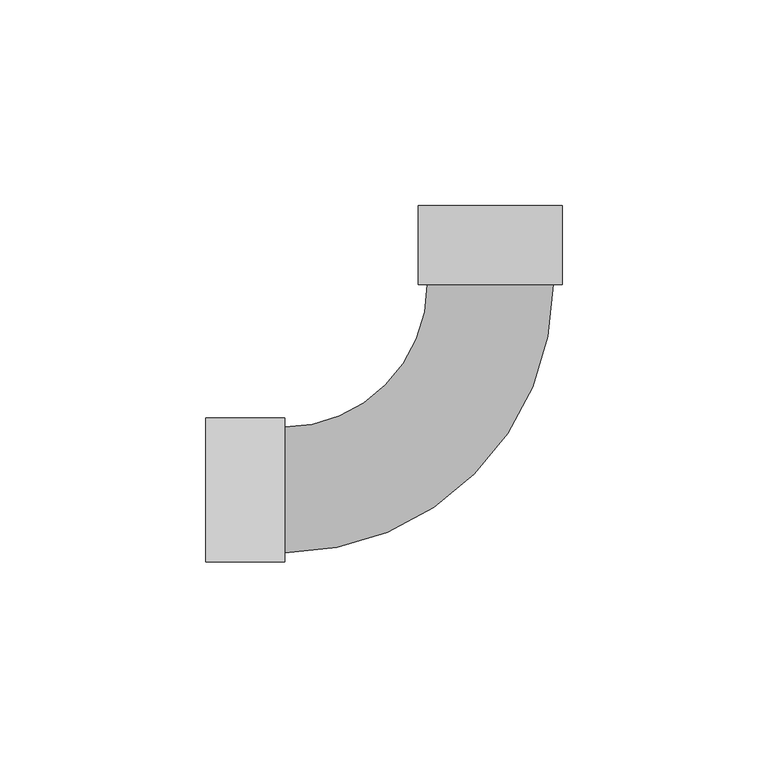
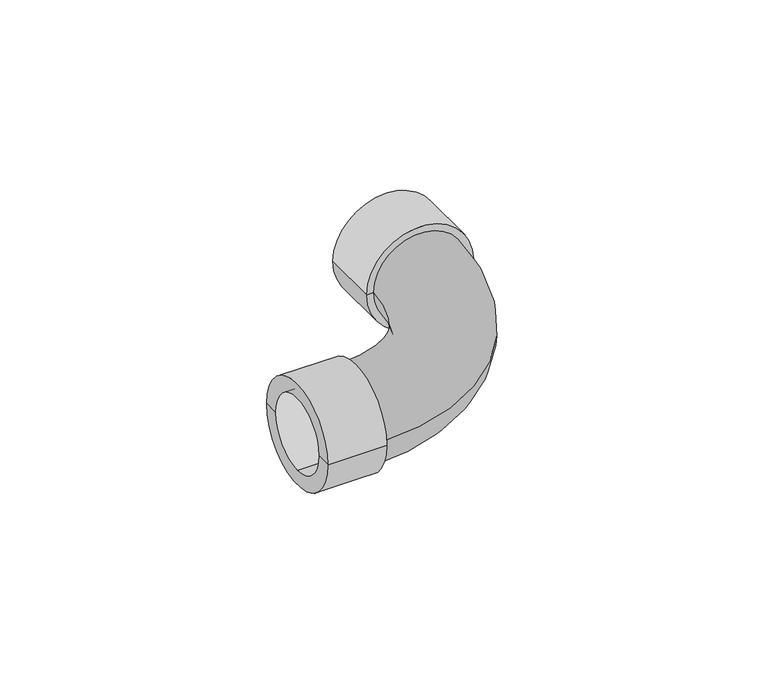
"""IFC4 building model written with IfcOpenShell, lengths in millimetres: pipe fitting geometry, PipeFitting_HTA_CPVC_Bends90° : 25mm x 90°."""

from ifc_helpers import new_model, si_unit, point, frame, origin, place, context, project, spatial, polyline, circle_curve, ellipse_curve, trimmed, source, transform, mapped, element, save
from ifc_brep_helpers import plane_surface, cylinder_surface, revolved_surface, advanced_brep


def pipe_fitting_d5c0d7c0(model_context):
    return source(origin(), model_context, "Body", "AdvancedBrep", [
        advanced_brep(
        [(-50.0, -15.3, 0.0), (15.3, 50.0, 0.0), (-15.3, 50.0, 0.0), (-50.0, 15.3, 0.0), (-50.0, 17.55, 0.0), (-50.0, -17.55, 0.0), (-69.2, -17.55, 0.0), (-69.2, 17.55, 0.0), (-69.2, -12.5, 0.0), (-69.2, 0.0, -12.5), (-69.2, 12.5, 0.0), (-69.2, 0.0, 12.5), (-17.55, 50.0, 0.0), (17.55, 50.0, 0.0), (17.55, 69.2, 0.0), (-17.55, 69.2, 0.0), (-12.5, 69.2, 0.0), (0.0, 69.2, -12.5), (12.5, 69.2, 0.0), (0.0, 69.2, 12.5), (0.0, 50.0, -12.5), (0.0, 50.0, 12.5), (-50.0, 0.0, -12.5), (-50.0, 0.0, 12.5)],
        [
            (0, 1, circle_curve(frame((-50.0, 50.0, 0.0), z_axis=(0.0, 0.0, 1.0), x_axis=(1.0, 0.0, 0.0)), 65.3)),
            (1, 2, circle_curve(frame((0.0, 50.0, 0.0), z_axis=(0.0, -1.0, 0.0), x_axis=(1.0, 0.0, 0.0)), 15.3)),
            (2, 3, circle_curve(frame((-50.0, 50.0, 0.0), z_axis=(0.0, 0.0, -1.0), x_axis=(1.0, 0.0, 0.0)), 34.7)),
            (3, 0, circle_curve(frame((-50.0, 0.0, 0.0), z_axis=(1.0, 0.0, 0.0), x_axis=(0.0, -1.0, 0.0)), 15.3)),
            (0, 3, circle_curve(frame((-50.0, 0.0, 0.0), z_axis=(1.0, 0.0, 0.0), x_axis=(0.0, -1.0, 0.0)), 15.3)),
            (2, 1, circle_curve(frame((0.0, 50.0, 0.0), z_axis=(0.0, -1.0, 0.0), x_axis=(1.0, 0.0, 0.0)), 15.3)),
            (4, 5, circle_curve(frame((-50.0, 0.0, 0.0), z_axis=(-1.0, 0.0, 0.0), x_axis=(0.0, -1.0, 0.0)), 17.55)),
            (5, 6),
            (6, 7, circle_curve(frame((-69.2, 0.0, 0.0), z_axis=(1.0, 0.0, 0.0), x_axis=(0.0, -1.0, 0.0)), 17.55)),
            (7, 4),
            (5, 4, circle_curve(frame((-50.0, 0.0, 0.0), z_axis=(-1.0, 0.0, 0.0), x_axis=(0.0, -1.0, 0.0)), 17.55)),
            (7, 6, circle_curve(frame((-69.2, 0.0, 0.0), z_axis=(1.0, 0.0, 0.0), x_axis=(0.0, -1.0, 0.0)), 17.55)),
            (4, 3),
            (0, 5),
            (6, 8),
            (8, 9, circle_curve(frame((-69.2, 0.0, 0.0), z_axis=(1.0, 0.0, 0.0), x_axis=(0.0, 0.0, 1.0)), 12.5)),
            (9, 10, circle_curve(frame((-69.2, 0.0, 0.0), z_axis=(1.0, 0.0, 0.0), x_axis=(0.0, 0.0, 1.0)), 12.5)),
            (10, 7),
            (10, 11, circle_curve(frame((-69.2, 0.0, 0.0), z_axis=(1.0, 0.0, 0.0), x_axis=(0.0, 0.0, 1.0)), 12.5)),
            (11, 8, circle_curve(frame((-69.2, 0.0, 0.0), z_axis=(1.0, 0.0, 0.0), x_axis=(0.0, 0.0, 1.0)), 12.5)),
            (12, 13, circle_curve(frame((0.0, 50.0, 0.0), z_axis=(0.0, -1.0, 0.0), x_axis=(-1.0, 0.0, 0.0)), 17.55)),
            (13, 1),
            (2, 12),
            (13, 12, circle_curve(frame((0.0, 50.0, 0.0), z_axis=(0.0, -1.0, 0.0), x_axis=(-1.0, 0.0, 0.0)), 17.55)),
            (14, 15, circle_curve(frame((0.0, 69.2, 0.0), z_axis=(0.0, 1.0, 0.0), x_axis=(-1.0, 0.0, 0.0)), 17.55)),
            (15, 16),
            (16, 17, circle_curve(frame((0.0, 69.2, 0.0), z_axis=(0.0, -1.0, 0.0), x_axis=(0.0, 0.0, 1.0)), 12.5)),
            (17, 18, circle_curve(frame((0.0, 69.2, 0.0), z_axis=(0.0, -1.0, 0.0), x_axis=(0.0, 0.0, 1.0)), 12.5)),
            (18, 14),
            (15, 14, circle_curve(frame((0.0, 69.2, 0.0), z_axis=(0.0, 1.0, 0.0), x_axis=(-1.0, 0.0, 0.0)), 17.55)),
            (18, 19, circle_curve(frame((0.0, 69.2, 0.0), z_axis=(0.0, -1.0, 0.0), x_axis=(0.0, 0.0, 1.0)), 12.5)),
            (19, 16, circle_curve(frame((0.0, 69.2, 0.0), z_axis=(0.0, -1.0, 0.0), x_axis=(0.0, 0.0, 1.0)), 12.5)),
            (12, 15),
            (14, 13),
            (20, 21, circle_curve(frame((0.0, 50.0, 0.0), z_axis=(0.0, 1.0, 0.0), x_axis=(0.0, 0.0, 1.0)), 12.5)),
            (21, 20, circle_curve(frame((0.0, 50.0, 0.0), z_axis=(0.0, 1.0, 0.0), x_axis=(0.0, 0.0, 1.0)), 12.5)),
            (21, 19),
            (17, 20),
            (22, 23, circle_curve(frame((-50.0, 0.0, 0.0), z_axis=(-1.0, 0.0, 0.0), x_axis=(0.0, 0.0, 1.0)), 12.5)),
            (23, 22, circle_curve(frame((-50.0, 0.0, 0.0), z_axis=(-1.0, 0.0, 0.0), x_axis=(0.0, 0.0, 1.0)), 12.5)),
            (23, 11),
            (9, 22),
        ],
        [
            revolved_surface(trimmed(ellipse_curve(frame((0.0, 50.0, 0.0), z_axis=(0.0, 1.0, 0.0), x_axis=(1.0, 0.0, 0.0)), 15.3, 15.3), [point((-15.3, 50.0, 0.0))], [point((15.3, 50.0, 0.0))], True, "CARTESIAN"), (-50.0, 50.0, 0.0), (0.0, 0.0, -1.0)),
            revolved_surface(trimmed(ellipse_curve(frame((0.0, 50.0, 0.0), z_axis=(0.0, 1.0, 0.0), x_axis=(1.0, 0.0, 0.0)), 15.3, 15.3), [point((15.3, 50.0, 0.0))], [point((-15.3, 50.0, 0.0))], True, "CARTESIAN"), (-50.0, 50.0, 0.0), (0.0, 0.0, -1.0)),
            cylinder_surface(frame((-50.0, 0.0, 0.0), z_axis=(1.0, 0.0, 0.0), x_axis=(0.0, -1.0, 0.0)), 17.55),
            plane_surface(frame((-50.0, 0.0, 0.0), z_axis=(1.0, 0.0, 0.0), x_axis=(0.0, -1.0, 0.0))),
            plane_surface(frame((-69.2, 0.0, 0.0), z_axis=(-1.0, 0.0, 0.0), x_axis=(0.0, -1.0, 0.0))),
            plane_surface(frame((0.0, 50.0, 0.0), z_axis=(0.0, -1.0, 0.0), x_axis=(-1.0, 0.0, 0.0))),
            plane_surface(frame((0.0, 69.2, 0.0), z_axis=(0.0, 1.0, 0.0), x_axis=(-1.0, 0.0, 0.0))),
            cylinder_surface(frame((0.0, 69.2, 0.0), z_axis=(0.0, -1.0, 0.0), x_axis=(-1.0, 0.0, 0.0)), 17.55),
            plane_surface(frame((0.0, 50.0, 12.5), z_axis=(0.0, 1.0, 0.0), x_axis=(-1.0, 0.0, 0.0))),
            revolved_surface(polyline([(0.0, 50.0, 12.5), (0.0, 69.2, 12.5)]), (0.0, 69.2, 0.0), (0.0, -1.0, 0.0)),
            plane_surface(frame((-50.0, 0.0, 12.5), z_axis=(-1.0, 0.0, 0.0), x_axis=(0.0, -1.0, 0.0))),
            revolved_surface(polyline([(-50.0, 0.0, 12.5), (-69.2, 0.0, 12.5)]), (-69.2, 0.0, 0.0), (1.0, 0.0, 0.0)),
        ],
        [
            (0, [[1, 2, 3, 4]]),
            (1, [[-1, 5, -3, 6]]),
            (2, [[7, 8, 9, 10]]),
            (2, [[-8, 11, -10, 12]]),
            (3, [[-7, 13, -5, 14]]),
            (3, [[-11, -14, -4, -13]]),
            (4, [[-9, 15, 16, 17, 18]]),
            (4, [[-12, -18, 19, 20, -15]]),
            (5, [[21, 22, -6, 23]]),
            (5, [[24, -23, -2, -22]]),
            (6, [[25, 26, 27, 28, 29]]),
            (6, [[30, -29, 31, 32, -26]]),
            (7, [[-21, 33, -25, 34]]),
            (7, [[-24, -34, -30, -33]]),
            (8, [[35, 36]]),
            (9, [[-36, 37, -31, -28, 38]]),
            (9, [[-35, -38, -27, -32, -37]]),
            (10, [[39, 40]]),
            (11, [[-40, 41, -19, -17, 42]]),
            (11, [[-39, -42, -16, -20, -41]]),
        ],
    ),
    ])


if __name__ == "__main__":
    model = new_model("IFC4")
    model_context = context("Model", 3, world=origin())
    ifc_project = project(units=[si_unit("LENGTHUNIT", "METRE", prefix="MILLI")], contexts=[model_context])
    site = spatial("IfcSite", under=ifc_project)
    building = spatial("IfcBuilding", under=site)
    placement = place(None, origin())
    pipe_fitting_shape = pipe_fitting_d5c0d7c0(model_context)
    element("IfcPipeFitting", 1, ObjectType="PipeFitting_HTA_CPVC_Bends90° : 25mm x 90°", at=placement, inside=building, context=model_context, shape_type="MappedRepresentation", body=[
        mapped(pipe_fitting_shape, transform((0.0, 0.0, 0.0), x_axis=(1.0, 0.0, 0.0), y_axis=(0.0, 1.0, 0.0), z_axis=(0.0, 0.0, 1.0))),
    ])
    save(model, "model.ifc")
